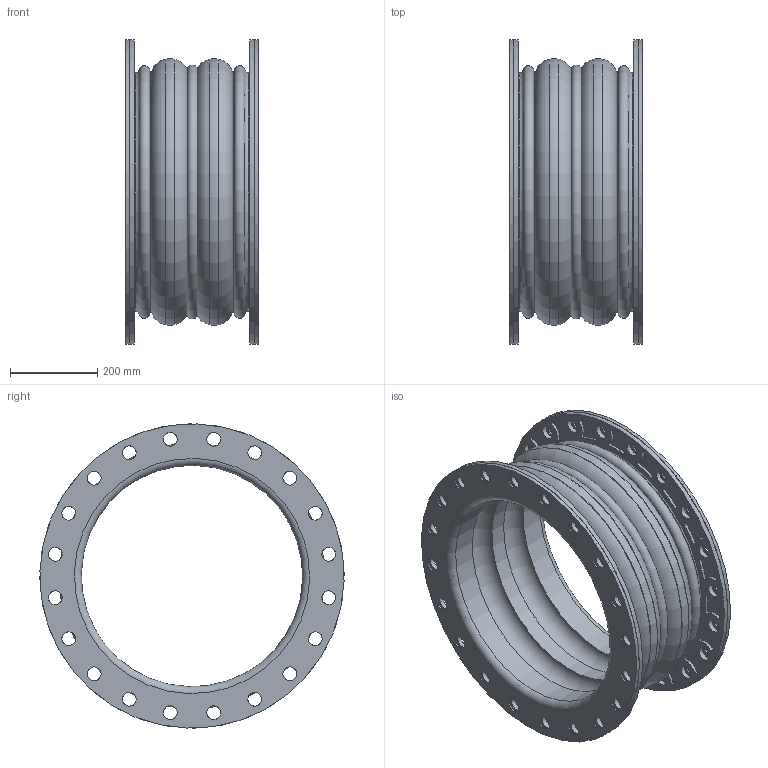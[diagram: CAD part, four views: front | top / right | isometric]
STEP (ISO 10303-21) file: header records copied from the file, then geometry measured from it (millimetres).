
FILE_DESCRIPTION((''),'2;1');
FILE_NAME('C:\2011_Work\Designs\Mercer\Stock Joints\450 Style\452\STEP\Style452 20x12.stp','2013-07-26T17:27:56',('mquog'),(''),'Autodesk Inventor 2011','Autodesk Inventor 2011','');
FILE_SCHEMA(('AUTOMOTIVE_DESIGN { 1 0 10303 214 1 1 1 1 }'));
Length unit declared in the file: inch
Products named in the file (4): Style452 20x12; 20DI450BUR150; 20_MBR; 452 20x12
Assembly tree (4 placements, depth 2):
  Style452 20x12
    20DI450BUR150  x2
    20_MBR
    452 20x12
Bounding box: 304.8 x 698.39 x 698.39 mm (x, y, z)
Volume: 18021104.6 mm3; surface area: 13883905.4 mm2
Topology: 36 solids, 36 shells, 872 faces, 2196 edges, 1432 vertices
Faces by surface type: cylinder 655, plane 108, torus 103, cone 6
Full cylindrical faces by diameter (mm): 31.75 x280, 508 x3, 514.35 x6, 520.7 x12, 522.732 x6, 524.764 x6, 527.939 x2, 539.75 x6, 692.15 x12, 698.5 x2
Entity records: 19500 total; most frequent: DIRECTION 3626, CARTESIAN_POINT 2955, ORIENTED_EDGE 2446, AXIS2_PLACEMENT_3D 1733, EDGE_LOOP 1683, EDGE_CURVE 1223, CIRCLE 1063, VERTEX_POINT 1062
